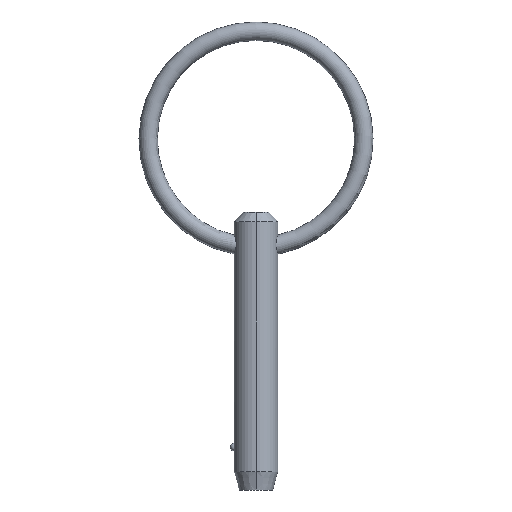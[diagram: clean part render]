
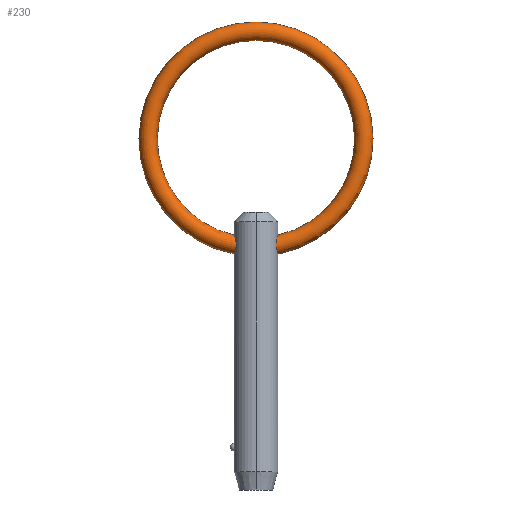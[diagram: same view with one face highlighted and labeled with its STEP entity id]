
A CAD part, left-side view. The second image highlights one B-rep face of the part: STEP entity #230.
In plain terms, the highlighted toroidal (fillet/blend) face has major radius 11.7 mm and minor radius 1 mm.
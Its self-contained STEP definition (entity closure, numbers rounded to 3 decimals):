
#11 = ORIENTED_EDGE ( 'NONE', *, *, #311, .T. ) ;
#36 = CARTESIAN_POINT ( 'NONE',  ( -0.614, 2.301, 22.345 ) ) ;
#38 = CARTESIAN_POINT ( 'NONE',  ( -0.996, 2.162, 21.665 ) ) ;
#41 = CARTESIAN_POINT ( 'NONE',  ( -0.514, -2.327, 20.649 ) ) ;
#42 = CARTESIAN_POINT ( 'NONE',  ( 0., 0., 33. ) ) ;
#43 = CIRCLE ( 'NONE', #366, 10.7 ) ;
#45 = CARTESIAN_POINT ( 'NONE',  ( -0.982, -2.169, 21.265 ) ) ;
#48 = CARTESIAN_POINT ( 'NONE',  ( -0.268, -2.368, 20.551 ) ) ;
#72 = CARTESIAN_POINT ( 'NONE',  ( -0.864, 2.218, 22.041 ) ) ;
#74 = CARTESIAN_POINT ( 'NONE',  ( -0.975, 2.171, 21.267 ) ) ;
#78 = CARTESIAN_POINT ( 'NONE',  ( -0.507, 2.329, 22.425 ) ) ;
#88 = CARTESIAN_POINT ( 'NONE',  ( -0.88, -2.219, 22.06 ) ) ;
#89 = DIRECTION ( 'NONE',  ( 1., 0., 0. ) ) ;
#103 = VERTEX_POINT ( 'NONE', #280 ) ;
#110 = EDGE_CURVE ( 'NONE', #103, #424, #304, .T. ) ;
#119 = B_SPLINE_CURVE_WITH_KNOTS ( 'NONE', 3,
 ( #367, #468, #337, #78, #36, #267, #72, #122, #38, #153, #196, #74, #189, #401, #474, #342, #339, #398, #303, #151 ),
 .UNSPECIFIED., .F., .F.,
 ( 4, 2, 2, 2, 2, 2, 2, 2, 2, 4 ),
 ( 0.004, 0.004, 0.005, 0.005, 0.005, 0.006, 0.006, 0.006, 0.007, 0.007 ),
 .UNSPECIFIED. ) ;
#120 = CARTESIAN_POINT ( 'NONE',  ( 0., 2.38, 20.525 ) ) ;
#122 = CARTESIAN_POINT ( 'NONE',  ( -0.966, 2.176, 21.796 ) ) ;
#124 = CARTESIAN_POINT ( 'NONE',  ( 0., 2.38, 22.568 ) ) ;
#146 = ORIENTED_EDGE ( 'NONE', *, *, #213, .F. ) ;
#151 = CARTESIAN_POINT ( 'NONE',  ( 0., 2.38, 20.525 ) ) ;
#153 = CARTESIAN_POINT ( 'NONE',  ( -1.001, 2.159, 21.464 ) ) ;
#161 = CARTESIAN_POINT ( 'NONE',  ( 0., 0., 33. ) ) ;
#165 = EDGE_LOOP ( 'NONE', ( #146, #310, #11, #341 ) ) ;
#166 = DIRECTION ( 'NONE',  ( 1., 0., 0. ) ) ;
#180 = DIRECTION ( 'NONE',  ( 0., 0., -1. ) ) ;
#189 = CARTESIAN_POINT ( 'NONE',  ( -0.957, 2.179, 21.202 ) ) ;
#196 = CARTESIAN_POINT ( 'NONE',  ( -0.997, 2.161, 21.398 ) ) ;
#197 = CARTESIAN_POINT ( 'NONE',  ( 0., -2.38, 22.568 ) ) ;
#202 = VERTEX_POINT ( 'NONE', #124 ) ;
#203 = CARTESIAN_POINT ( 'NONE',  ( -0.811, -2.24, 20.906 ) ) ;
#213 = EDGE_CURVE ( 'NONE', #413, #103, #475, .T. ) ;
#215 = AXIS2_PLACEMENT_3D ( 'NONE', #161, #89, #180 ) ;
#230 = ADVANCED_FACE ( 'NONE', ( #467 ), #375, .T. ) ;
#238 = CARTESIAN_POINT ( 'NONE',  ( -0.991, -2.164, 21.801 ) ) ;
#244 = CARTESIAN_POINT ( 'NONE',  ( -1.004, -2.158, 21.399 ) ) ;
#245 = AXIS2_PLACEMENT_3D ( 'NONE', #42, #346, #450 ) ;
#267 = CARTESIAN_POINT ( 'NONE',  ( -0.793, 2.246, 22.152 ) ) ;
#276 = CARTESIAN_POINT ( 'NONE',  ( -0.134, -2.38, 22.568 ) ) ;
#280 = CARTESIAN_POINT ( 'NONE',  ( 0., -2.38, 20.525 ) ) ;
#282 = CARTESIAN_POINT ( 'NONE',  ( 0., -2.38, 20.525 ) ) ;
#283 = DIRECTION ( 'NONE',  ( 0., 0., -1. ) ) ;
#303 = CARTESIAN_POINT ( 'NONE',  ( -0.133, 2.38, 20.525 ) ) ;
#304 = B_SPLINE_CURVE_WITH_KNOTS ( 'NONE', 3,
 ( #282, #441, #48, #41, #412, #203, #314, #45, #244, #238, #88, #317, #376, #442, #276, #197 ),
 .UNSPECIFIED., .F., .F.,
 ( 4, 2, 2, 2, 2, 2, 2, 4 ),
 ( 0.006, 0.006, 0.007, 0.007, 0.007, 0.008, 0.009, 0.009 ),
 .UNSPECIFIED. ) ;
#310 = ORIENTED_EDGE ( 'NONE', *, *, #402, .F. ) ;
#311 = EDGE_CURVE ( 'NONE', #202, #424, #43, .T. ) ;
#314 = CARTESIAN_POINT ( 'NONE',  ( -0.885, -2.21, 21.017 ) ) ;
#317 = CARTESIAN_POINT ( 'NONE',  ( -0.613, -2.302, 22.346 ) ) ;
#337 = CARTESIAN_POINT ( 'NONE',  ( -0.267, 2.368, 22.537 ) ) ;
#339 = CARTESIAN_POINT ( 'NONE',  ( -0.512, 2.328, 20.648 ) ) ;
#341 = ORIENTED_EDGE ( 'NONE', *, *, #110, .F. ) ;
#342 = CARTESIAN_POINT ( 'NONE',  ( -0.626, 2.298, 20.722 ) ) ;
#346 = DIRECTION ( 'NONE',  ( 1., 0., 0. ) ) ;
#351 = CARTESIAN_POINT ( 'NONE',  ( 0., 0., 33. ) ) ;
#366 = AXIS2_PLACEMENT_3D ( 'NONE', #351, #166, #283 ) ;
#367 = CARTESIAN_POINT ( 'NONE',  ( 0., 2.38, 22.568 ) ) ;
#375 = TOROIDAL_SURFACE ( 'NONE', #245, 11.7, 1. ) ;
#376 = CARTESIAN_POINT ( 'NONE',  ( -0.505, -2.329, 22.426 ) ) ;
#398 = CARTESIAN_POINT ( 'NONE',  ( -0.267, 2.368, 20.551 ) ) ;
#401 = CARTESIAN_POINT ( 'NONE',  ( -0.885, 2.21, 21.017 ) ) ;
#402 = EDGE_CURVE ( 'NONE', #202, #413, #119, .T. ) ;
#412 = CARTESIAN_POINT ( 'NONE',  ( -0.626, -2.298, 20.722 ) ) ;
#413 = VERTEX_POINT ( 'NONE', #120 ) ;
#424 = VERTEX_POINT ( 'NONE', #436 ) ;
#436 = CARTESIAN_POINT ( 'NONE',  ( 0., -2.38, 22.568 ) ) ;
#441 = CARTESIAN_POINT ( 'NONE',  ( -0.133, -2.38, 20.525 ) ) ;
#442 = CARTESIAN_POINT ( 'NONE',  ( -0.267, -2.368, 22.537 ) ) ;
#450 = DIRECTION ( 'NONE',  ( 0., 0., -1. ) ) ;
#467 = FACE_OUTER_BOUND ( 'NONE', #165, .T. ) ;
#468 = CARTESIAN_POINT ( 'NONE',  ( -0.133, 2.38, 22.568 ) ) ;
#474 = CARTESIAN_POINT ( 'NONE',  ( -0.811, 2.24, 20.905 ) ) ;
#475 = CIRCLE ( 'NONE', #215, 12.7 ) ;
